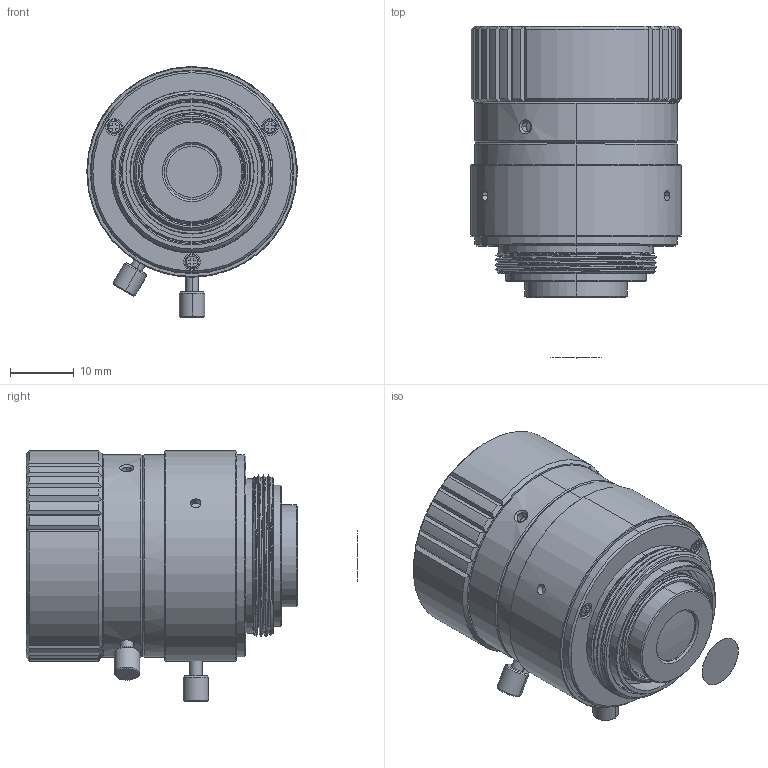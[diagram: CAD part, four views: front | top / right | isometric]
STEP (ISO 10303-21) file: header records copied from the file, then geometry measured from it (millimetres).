
FILE_DESCRIPTION (( 'STEP AP214' ), '1' );
FILE_NAME ('HN-P-0828-6M-C2-3_3D_Modeling.STEP', '2022-08-15T07:11:56', ( 'DH' ), ( '' ), 'SwSTEP 2.0', 'SolidWorks 2016', '' );
FILE_SCHEMA (( 'AUTOMOTIVE_DESIGN' ));
Length unit declared in the file: millimetre
Products named in the file (16): HN-P-0828-6M-C2-3-8-109; HN-P-0828-6M-C2-3-8-403; HN-P-0828-6M-C2-3-8B-202; HN-P-0828-6M-C2-3-8B-301; HN-P-0828-6M-C2-3-8-101; HN-P-0828-6M-C2-3-8B-201; HN-P-0828-6M-C2-3_3D_Modeling; HN-P-0828-6M-C2-3-16-502; HN-P-0828-6M-C2-3-8-XM; HN-P-0828-6M-C2-3-16-501; HN-P-0828-6M-C2-3-8-108; HN-P-0828-6M-C2-3-8-102; HN-P-0828-6M-C2-3-8-G9; HN-P-0828-6M-C2-3-8-G1; HN-P-0828-6M-C2-3-8-401; HN-P-0828-6M-C2-3-16-203
Assembly tree (18 placements, depth 2):
  HN-P-0828-6M-C2-3_3D_Modeling
    HN-P-0828-6M-C2-3-8B-201
    HN-P-0828-6M-C2-3-8-101
    HN-P-0828-6M-C2-3-8B-301
    HN-P-0828-6M-C2-3-8B-202
    HN-P-0828-6M-C2-3-8-403
    HN-P-0828-6M-C2-3-8-109
    HN-P-0828-6M-C2-3-16-203
    HN-P-0828-6M-C2-3-8-401
    HN-P-0828-6M-C2-3-8-G1
    HN-P-0828-6M-C2-3-8-G9
    HN-P-0828-6M-C2-3-8-102
    HN-P-0828-6M-C2-3-8-108
    HN-P-0828-6M-C2-3-16-501  x2
    HN-P-0828-6M-C2-3-8-XM
    HN-P-0828-6M-C2-3-16-502  x3
Bounding box: 33 x 52.02 x 39.31 mm (x, y, z)
Volume: 11101.8 mm3; surface area: 28650.4 mm2
Topology: 16 solids, 19 shells, 796 faces, 2015 edges, 1289 vertices
Faces by surface type: cylinder 338, cone 202, plane 180, bspline 76
Full cylindrical faces by diameter (mm): 22.5 x2
Entity records: 49403 total; most frequent: CARTESIAN_POINT 32262, ORIENTED_EDGE 3641, DIRECTION 3056, EDGE_CURVE 1826, AXIS2_PLACEMENT_3D 1235, VERTEX_POINT 1171, EDGE_LOOP 848, ADVANCED_FACE 725
